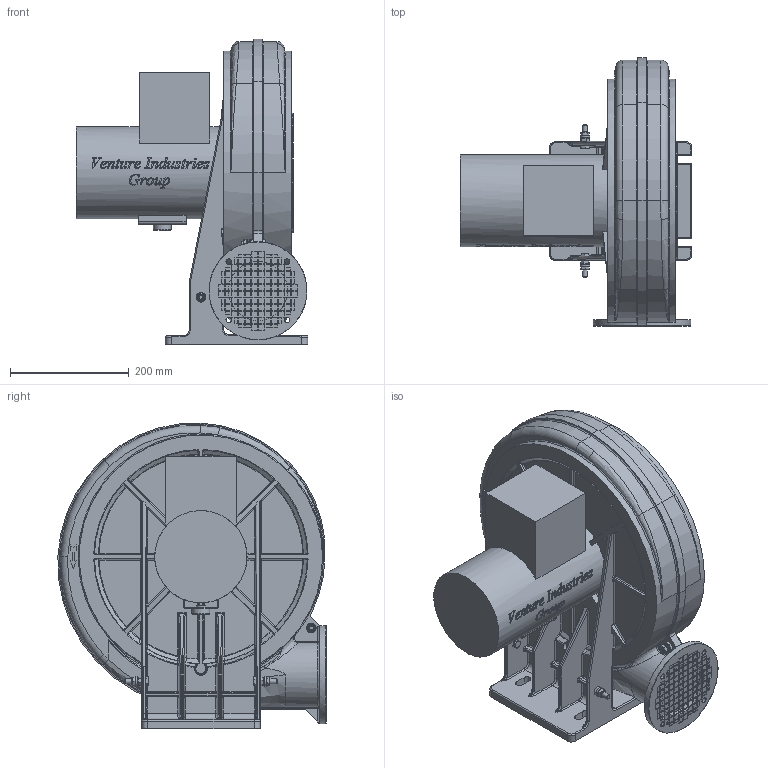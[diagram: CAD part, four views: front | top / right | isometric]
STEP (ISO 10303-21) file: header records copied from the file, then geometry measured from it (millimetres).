
FILE_DESCRIPTION(/* description */ (''),/* implementation_level */ '2;1');
FILE_NAME(/* name */ 'E:\Mariusz\Modele uproszczone\EBA\EBA 110\EBA_X_110X LG270 45519400\EBA_X_110X LG270 45519400.stp',/* time_stamp */ '2020-01-29T16:56:05+01:00',/* author */ ('M.Janczarek'),/* organization */ (''),/* preprocessor_version */ 'ST-DEVELOPER v16.13',/* originating_system */ 'Autodesk Inventor 2018',/* authorisation */ '');
FILE_SCHEMA (('AUTOMOTIVE_DESIGN { 1 0 10303 214 3 1 1 }'));
Products named in the file (1): EBA_X_110X LG270 45519400
Bounding box: 390.35 x 452 x 515 mm (x, y, z)
Volume: 25218341.6 mm3; surface area: 1022326.7 mm2
Topology: 1 solids, 1 shells, 3143 faces, 8595 edges, 5489 vertices
Faces by surface type: plane 1732, bspline 876, cylinder 314, torus 85, sphere 72, cone 64
Full cylindrical faces by diameter (mm): 6.647 x5, 8 x4, 8.4 x2, 9.2 x8, 9.5 x4, 11.4 x3, 15 x1, 15.2 x1, 16 x4, 30 x1, 100 x1, 155.4 x1, 162 x1, 165 x2, 200 x2, 410 x2
Entity records: 121981 total; most frequent: CARTESIAN_POINT 44138, ORIENTED_EDGE 16980, DIRECTION 12898, EDGE_CURVE 8490, LINE 5498, VECTOR 5498, VERTEX_POINT 5468, EDGE_LOOP 3820
